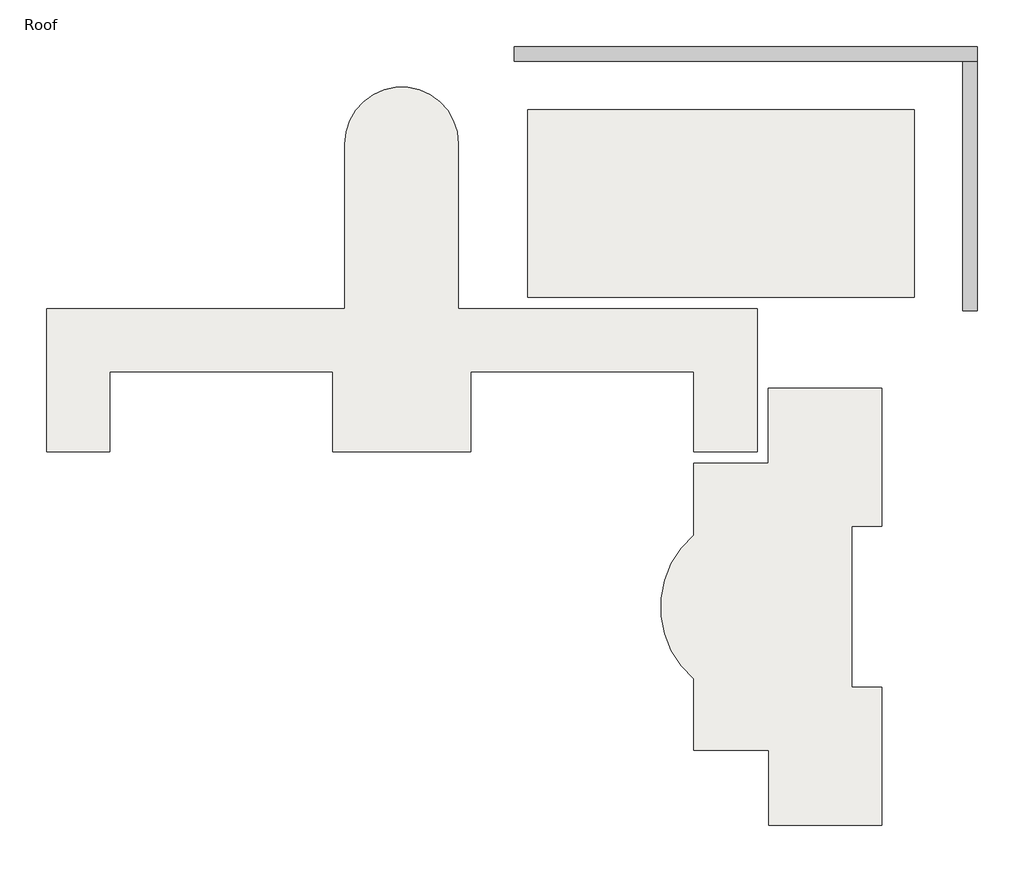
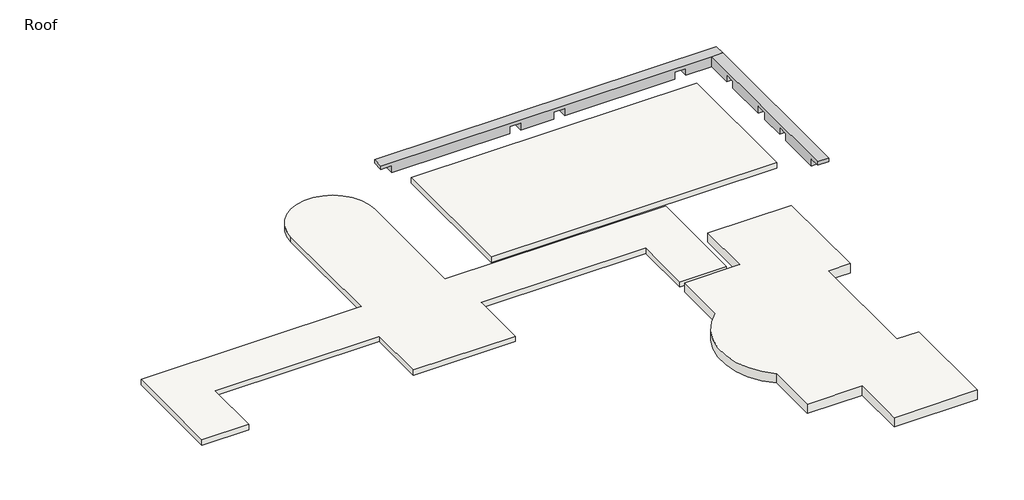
# One storey: 3 roofs, 2 beams.
"""IFC4 building model written with IfcOpenShell, lengths in millimetres."""

import ifcopenshell
import ifcopenshell.guid

model = None  # the IFC model being written
_history = None  # IfcOwnerHistory: only IFC2X3 demands one
_inside = {}  # id of a spatial element -> (the spatial element, [elements in it])
_under = {}  # id of a project, library or spatial element -> (it, [spatial elements below it])
_declared = {}  # id of a project -> (the project, [libraries it declares])
_typed = {}  # id of a type object -> (the type object, [elements of that type])
_made_of = {}  # id of a material, layer set ... -> (it, [elements and type objects made of it])


def new_model(schema):
    """Start an empty IFC model of exactly this schema.

    Asked for "IFC4X3", IfcOpenShell would pick the latest addendum, in which some entities
    have other attributes; the version numbers below select the first issue.
    IFC2X3 requires an IfcOwnerHistory on every rooted entity: one is made here for all.
    """
    global model, _history
    if schema == "IFC4X3":
        model = ifcopenshell.file(schema_version=(4, 3, 0, 0))
    else:
        model = ifcopenshell.file(schema=schema)
    _inside.clear()
    _under.clear()
    _declared.clear()
    _typed.clear()
    _made_of.clear()
    _history = None
    if model.schema == "IFC2X3":
        org = make("IfcOrganization", Name="unknown")
        user = make(
            "IfcPersonAndOrganization",
            ThePerson=make("IfcPerson", FamilyName="unknown"),
            TheOrganization=org,
        )
        app = make(
            "IfcApplication",
            ApplicationDeveloper=org,
            Version="unknown",
            ApplicationFullName="unknown",
            ApplicationIdentifier="unknown",
        )
        _history = make(
            "IfcOwnerHistory",
            OwningUser=user,
            OwningApplication=app,
            ChangeAction="ADDED",
            CreationDate=0,
        )
    return model


def make(cls, **values):
    """One entity of the class cls with the attributes given. An attribute that is None is left unset."""
    return model.create_entity(
        cls, **{name: value for name, value in values.items() if value is not None}
    )


def rooted(cls, **values):
    """An entity with a GlobalId (a new one), such as an element, a storey or a relation."""
    return make(cls, GlobalId=ifcopenshell.guid.new(), OwnerHistory=_history, **values)


def si_unit(unit_type, name, prefix=None):
    """IfcSIUnit, for example si_unit("LENGTHUNIT", "METRE", prefix="MILLI")."""
    return make("IfcSIUnit", UnitType=unit_type, Prefix=prefix, Name=name)


def assignment(units):
    """IfcUnitAssignment: the units of a project."""
    return None if units is None else make("IfcUnitAssignment", Units=units)


def point(xyz):
    """IfcCartesianPoint."""
    return None if xyz is None else make("IfcCartesianPoint", Coordinates=xyz)


def direction(xyz):
    """IfcDirection."""
    return None if xyz is None else make("IfcDirection", DirectionRatios=xyz)


def frame(location, z_axis=None, x_axis=None):
    """IfcAxis2Placement3D, a coordinate frame: its origin and axes. An axis left out is left unset."""
    return make(
        "IfcAxis2Placement3D",
        Location=point(location),
        Axis=direction(z_axis),
        RefDirection=direction(x_axis),
    )


def frame_2d(location, x_axis=None):
    """IfcAxis2Placement2D, a coordinate frame in the plane: its origin and x axis."""
    return make(
        "IfcAxis2Placement2D", Location=point(location), RefDirection=direction(x_axis)
    )


def origin():
    """The frame at (0, 0, 0) with its axes left unset."""
    return frame((0.0, 0.0, 0.0))


def place(relative_to, where):
    """IfcLocalPlacement: puts the frame where relative to a parent placement (None: the world)."""
    return make(
        "IfcLocalPlacement", PlacementRelTo=relative_to, RelativePlacement=where
    )


def context(
    kind, dimensions, precision=None, world=None, true_north=None, identifier=None
):
    """IfcGeometricRepresentationContext, for example the 3D "Model" context."""
    return make(
        "IfcGeometricRepresentationContext",
        ContextIdentifier=identifier,
        ContextType=kind,
        CoordinateSpaceDimension=dimensions,
        Precision=precision,
        WorldCoordinateSystem=world,
        TrueNorth=true_north,
    )


def project(units=None, contexts=None):
    """IfcProject with its units and contexts."""
    return rooted(
        "IfcProject",
        Name="project",
        RepresentationContexts=contexts,
        UnitsInContext=assignment(units),
    )


def spatial(cls, under=None, at=None, **own):
    """A site, building, storey or space (cls), placed at a placement, below another one or the project."""
    s = rooted(cls, ObjectPlacement=at, **own)
    if under is not None:
        _under.setdefault(under.id(), (under, []))[1].append(s)
    return s


def polyline(points):
    """IfcPolyline through the points."""
    return make("IfcPolyline", Points=[point(p) for p in points])


def circle_curve(where, radius):
    """IfcCircle in the frame where."""
    return make("IfcCircle", Position=where, Radius=radius)


def trimmed(basis, trim1, trim2, sense, master):
    """IfcTrimmedCurve: the piece of a basis curve between two trims."""
    return make(
        "IfcTrimmedCurve",
        BasisCurve=basis,
        Trim1=trim1,
        Trim2=trim2,
        SenseAgreement=sense,
        MasterRepresentation=master,
    )


def segment(curve, same_sense, transition):
    """IfcCompositeCurveSegment."""
    return make(
        "IfcCompositeCurveSegment",
        Transition=transition,
        SameSense=same_sense,
        ParentCurve=curve,
    )


def composite_curve(segments, self_intersect=None):
    """IfcCompositeCurve: segments joined end to end."""
    return make("IfcCompositeCurve", Segments=segments, SelfIntersect=self_intersect)


def outline(outer, holes=None, kind="AREA"):
    """IfcArbitraryClosedProfileDef: a profile drawn as a closed curve; with holes, ...WithVoids."""
    if holes is None:
        return make("IfcArbitraryClosedProfileDef", ProfileType=kind, OuterCurve=outer)
    return make(
        "IfcArbitraryProfileDefWithVoids",
        ProfileType=kind,
        OuterCurve=outer,
        InnerCurves=holes,
    )


def extrude(swept, where, along, depth):
    """IfcExtrudedAreaSolid: the profile swept, set in the frame where, extruded along a direction by depth."""
    return make(
        "IfcExtrudedAreaSolid",
        SweptArea=swept,
        Position=where,
        ExtrudedDirection=direction(along),
        Depth=depth,
    )


def faces_of(points, faces, orient=None, outer=None):
    """IfcFace entities. A face is a list of loops; a loop is a list of indices into points, from 0.

    orient and outer hold one flag for each loop. By default every Orientation is true, the
    first loop of a face is its IfcFaceOuterBound and the others are IfcFaceBound.
    """
    made = []
    for i, loops in enumerate(faces):
        bounds = []
        for j, loop in enumerate(loops):
            is_outer = j == 0 if outer is None else outer[i][j]
            bounds.append(
                make(
                    "IfcFaceOuterBound" if is_outer else "IfcFaceBound",
                    Bound=make("IfcPolyLoop", Polygon=[points[k] for k in loop]),
                    Orientation=True if orient is None else orient[i][j],
                )
            )
        made.append(make("IfcFace", Bounds=bounds))
    return made


def faceted_brep(points, faces, orient=None, outer=None, voids=None):
    """IfcFacetedBrep: a solid bounded by flat faces; with voids (closed shells), ...WithVoids."""
    shared = [point(p) for p in points]
    hull = make("IfcClosedShell", CfsFaces=faces_of(shared, faces, orient, outer))
    if voids is None:
        return make("IfcFacetedBrep", Outer=hull)
    return make(
        "IfcFacetedBrepWithVoids",
        Outer=hull,
        Voids=[
            make(cls, CfsFaces=faces_of(shared, fs, o, b)) for cls, fs, o, b in voids
        ],
    )


def shape(context_of_items, identifier, shape_type, items):
    """IfcShapeRepresentation: the items that make up one representation, for example the "Body"."""
    return make(
        "IfcShapeRepresentation",
        ContextOfItems=context_of_items,
        RepresentationIdentifier=identifier,
        RepresentationType=shape_type,
        Items=items,
    )


def made_of(thing, what):
    """Note that an element or type object is made of a material, layer set ...; save() writes the relation."""
    if what is not None:
        _made_of.setdefault(what.id(), (what, []))[1].append(thing)
    return thing


def element(
    cls,
    number,
    at=None,
    inside=None,
    cuts=None,
    type_object=None,
    material=None,
    context=None,
    identifier="Body",
    shape_type=None,
    held_by="IfcProductDefinitionShape",
    body=None,
    shapes=None,
    **own,
):
    """One element of the class cls, such as IfcWall. Its Tag is "e" and its number.

    at: its placement. inside: the storey or other place that contains it. cuts: it is an
    opening in that element (IfcRelVoidsElement). A single representation is given by context,
    identifier, shape_type and body (its items); several are given by shapes. held_by: the class
    of the entity that holds the representations. save() writes the other relations.
    """
    e = rooted(cls, Tag="e%d" % number, ObjectPlacement=at, **own)
    if body is not None:
        shapes = [shape(context, identifier, shape_type, body)]
    if shapes is not None:
        e.Representation = make(held_by, Representations=shapes)
    if inside is not None:
        _inside.setdefault(inside.id(), (inside, []))[1].append(e)
    if cuts is not None:
        rooted(
            "IfcRelVoidsElement", RelatingBuildingElement=cuts, RelatedOpeningElement=e
        )
    if type_object is not None:
        _typed.setdefault(type_object.id(), (type_object, []))[1].append(e)
    return made_of(e, material)


def aggregate(whole, parts):
    """IfcRelAggregates: a whole, such as a stair, and the parts it consists of."""
    return rooted("IfcRelAggregates", RelatingObject=whole, RelatedObjects=parts)


def save(model, path):
    """Write the relations noted so far, then the file.

    IfcRelAggregates (storeys below a building ...), IfcRelContainedInSpatialStructure (elements
    in a storey), IfcRelDefinesByType, IfcRelAssociatesMaterial and IfcRelDeclares: one each for
    every whole, place, type object, material and project.
    """
    for whole, parts in _under.values():
        aggregate(whole, parts)
    for where, things in _inside.values():
        rooted(
            "IfcRelContainedInSpatialStructure",
            RelatedElements=things,
            RelatingStructure=where,
        )
    for kind, things in _typed.values():
        rooted("IfcRelDefinesByType", RelatedObjects=things, RelatingType=kind)
    for what, things in _made_of.values():
        rooted("IfcRelAssociatesMaterial", RelatedObjects=things, RelatingMaterial=what)
    for by, libraries in _declared.values():
        rooted("IfcRelDeclares", RelatingContext=by, RelatedDefinitions=libraries)
    model.write(path)


model = new_model("IFC4")

# Units and contexts
model_context = context("Model", 3, world=origin())
ifc_project = project(units=[si_unit("LENGTHUNIT", "METRE", prefix="MILLI")], contexts=[model_context])

# Site, building, storey
site = spatial("IfcSite", under=ifc_project)
building = spatial("IfcBuilding", under=site)
storey = spatial("IfcBuildingStorey", under=building, Name="Roof", Elevation=12192.0)

# Beams
placement = place(None, origin())
element("IfcBeam", 1, ObjectType="Concrete-Rectangular Beam : 18 x 18", at=placement, inside=storey, context=model_context, shape_type="Brep", body=[
    faceted_brep([(-11622.0589563, 11741.6316867, 12192.0), (-11622.0589563, 12198.8316867, 12192.0), (-11622.0589563, 12198.8316867, 12039.6), (-11622.0589563, 11741.6316867, 12039.6), (2093.9410437, 11741.6316867, 12192.0), (2551.1410437, 11741.6316867, 12192.0), (2551.1410437, 12198.8316867, 12192.0), (-11164.8589563, 11741.6316867, 12039.6), (-11164.8589563, 11741.6316867, 11734.8), (-6288.0589563, 11741.6316867, 11734.8), (-6288.0589563, 11741.6316867, 12039.6), (-5830.8589563, 11741.6316867, 12039.6), (-5830.8589563, 11741.6316867, 11734.8), (-4459.2589563, 11741.6316867, 11734.8), (-4459.2589563, 11741.6316867, 12039.6), (-4002.0589563, 11741.6316867, 12039.6), (-4002.0589563, 11741.6316867, 11734.8), (569.9410437, 11741.6316867, 11734.8), (569.9410437, 11741.6316867, 12039.6), (1027.1410437, 11741.6316867, 12039.6), (1027.1410437, 11741.6316867, 11734.8), (2093.9410437, 11741.6316867, 11734.8), (2093.9410437, 11741.6316867, 12039.6), (2551.1410437, 11741.6316867, 12039.6), (1027.1410437, 12198.8316867, 11734.8), (2093.9410437, 12198.8316867, 11734.8), (2551.1410437, 12198.8316867, 12039.6), (2093.9410437, 12198.8316867, 12039.6), (1027.1410437, 12198.8316867, 12039.6), (569.9410437, 12198.8316867, 12039.6), (569.9410437, 12198.8316867, 11734.8), (-4002.0589563, 12198.8316867, 11734.8), (-4002.0589563, 12198.8316867, 12039.6), (-4459.2589563, 12198.8316867, 12039.6), (-4459.2589563, 12198.8316867, 11734.8), (-5830.8589563, 12198.8316867, 11734.8), (-5830.8589563, 12198.8316867, 12039.6), (-6288.0589563, 12198.8316867, 12039.6), (-6288.0589563, 12198.8316867, 11734.8), (-11164.8589563, 12198.8316867, 11734.8), (-11164.8589563, 12198.8316867, 12039.6)], [[[0, 1, 2, 3]], [[1, 0, 4, 5, 6]], [[5, 4, 0, 3, 7, 8, 9, 10, 11, 12, 13, 14, 15, 16, 17, 18, 19, 20, 21, 22, 23]], [[20, 24, 25, 21]], [[1, 6, 26, 27, 25, 24, 28, 29, 30, 31, 32, 33, 34, 35, 36, 37, 38, 39, 40, 2]], [[6, 5, 23, 26]], [[19, 28, 24, 20]], [[29, 18, 17, 30]], [[28, 19, 18, 29]], [[30, 17, 16, 31]], [[27, 22, 21, 25]], [[22, 27, 26, 23]], [[15, 32, 31, 16]], [[33, 14, 13, 34]], [[32, 15, 14, 33]], [[34, 13, 12, 35]], [[11, 36, 35, 12]], [[37, 10, 9, 38]], [[36, 11, 10, 37]], [[38, 9, 8, 39]], [[7, 40, 39, 8]], [[40, 7, 3, 2]]]),
])
element("IfcBeam", 2, ObjectType="Concrete-Rectangular Beam : 18 x 18", at=placement, inside=storey, context=model_context, shape_type="Brep", body=[
    faceted_brep([(2551.1410437, 4121.6316867, 12192.0), (2093.9410437, 4121.6316867, 12192.0), (2093.9410437, 4121.6316867, 12039.6), (2551.1410437, 4121.6316867, 12039.6), (2551.1410437, 11741.6316867, 12192.0), (2093.9410437, 11741.6316867, 12192.0), (2093.9410437, 11741.6316867, 12039.6), (2093.9410437, 11741.6316867, 11734.8), (2093.9410437, 10674.8316867, 11734.8), (2093.9410437, 10674.8316867, 12039.6), (2093.9410437, 10217.6316867, 12039.6), (2093.9410437, 10217.6316867, 11734.8), (2093.9410437, 8388.8316867, 11734.8), (2093.9410437, 8388.8316867, 12039.6), (2093.9410437, 7931.6316867, 12039.6), (2093.9410437, 7931.6316867, 11734.8), (2093.9410437, 6864.8316867, 11734.8), (2093.9410437, 6864.8316867, 12039.6), (2093.9410437, 6407.6316867, 12039.6), (2093.9410437, 6407.6316867, 11734.8), (2093.9410437, 4578.8316867, 11734.8), (2093.9410437, 4578.8316867, 12039.6), (2551.1410437, 6407.6316867, 11734.8), (2551.1410437, 4578.8316867, 11734.8), (2551.1410437, 4578.8316867, 12039.6), (2551.1410437, 6407.6316867, 12039.6), (2551.1410437, 6864.8316867, 12039.6), (2551.1410437, 6864.8316867, 11734.8), (2551.1410437, 7931.6316867, 11734.8), (2551.1410437, 7931.6316867, 12039.6), (2551.1410437, 8388.8316867, 12039.6), (2551.1410437, 8388.8316867, 11734.8), (2551.1410437, 10217.6316867, 11734.8), (2551.1410437, 10217.6316867, 12039.6), (2551.1410437, 10674.8316867, 12039.6), (2551.1410437, 10674.8316867, 11734.8), (2551.1410437, 11741.6316867, 11734.8), (2551.1410437, 11741.6316867, 12039.6)], [[[0, 1, 2, 3]], [[1, 0, 4, 5]], [[5, 6, 7, 8, 9, 10, 11, 12, 13, 14, 15, 16, 17, 18, 19, 20, 21, 2, 1]], [[19, 22, 23, 20]], [[4, 0, 3, 24, 23, 22, 25, 26, 27, 28, 29, 30, 31, 32, 33, 34, 35, 36, 37]], [[5, 4, 37, 36, 7, 6]], [[10, 33, 32, 11]], [[34, 9, 8, 35]], [[33, 10, 9, 34]], [[7, 36, 35, 8]], [[14, 29, 28, 15]], [[30, 13, 12, 31]], [[29, 14, 13, 30]], [[11, 32, 31, 12]], [[18, 25, 22, 19]], [[26, 17, 16, 27]], [[25, 18, 17, 26]], [[15, 28, 27, 16]], [[24, 21, 20, 23]], [[21, 24, 3, 2]]]),
])

# Roofs
element("IfcRoof", 3, ObjectType="Generic - 400mm", at=placement, inside=storey, context=model_context, shape_type="SweptSolid", body=[
    extrude(outline(composite_curve([segment(polyline([(-379.3839563, 1735.6191867), (-379.3839563, -2483.9558133), (-1293.7839563, -2483.9558133), (-1293.7839563, -7408.3808133), (-379.3839563, -7408.3808133), (-379.3839563, -11627.9558133), (-3836.9589563, -11627.9558133), (-3836.9589563, -9341.9558133), (-6122.9589563, -9341.9558133), (-6122.9589563, -7148.6528469)]), True, "CONTINUOUS"), segment(trimmed(circle_curve(frame_2d((-4269.7578344, -4953.2543405)), 2873.0), [point((-6122.9589563, -7148.6528469))], [point((-6122.9589563, -2757.8558342))], False, "CARTESIAN"), True, "CONTINUOUS"), segment(polyline([(-6122.9589563, -2757.8558342), (-6122.9589563, -550.3808133), (-3845.4214563, -550.3808133), (-3845.4214563, 1735.6191867), (-379.3839563, 1735.6191867)]), True, "CONTINUOUS")], self_intersect=False)), frame((0.0, 0.0, 12192.0), z_axis=(0.0, 0.0, 1.0), x_axis=(1.0, 0.0, 0.0)), (0.0, 0.0, 1.0), 400.0),
])
element("IfcRoof", 4, ObjectType="Generic - 9\"", at=placement, inside=storey, context=model_context, shape_type="SweptSolid", body=[
    extrude(outline(polyline([(-11217.2464563, 10270.0191867), (622.3285437, 10270.0191867), (622.3285437, 4526.4441867), (-11217.2464563, 4526.4441867), (-11217.2464563, 10270.0191867)])), frame((0.0, 0.0, 12192.0), z_axis=(0.0, 0.0, 1.0), x_axis=(1.0, 0.0, 0.0)), (0.0, 0.0, 1.0), 228.6),
])
element("IfcRoof", 5, ObjectType="Generic - 9\"", at=placement, inside=storey, context=model_context, shape_type="SweptSolid", body=[
    extrude(outline(composite_curve([segment(polyline([(-25934.9589563, -197.9558133), (-25934.9589563, 4174.0191867), (-16803.6589563, 4174.0191867), (-16803.6589563, 9227.0316867)]), True, "CONTINUOUS"), segment(trimmed(circle_curve(frame_2d((-15068.5214563, 9227.0316867)), 1735.1375), [point((-16803.6589563, 9227.0316867))], [point((-13333.3839563, 9227.0316867))], False, "CARTESIAN"), True, "CONTINUOUS"), segment(polyline([(-13333.3839563, 9227.0316867), (-13333.3839563, 4174.0191867), (-4189.3839563, 4174.0191867), (-4189.3839563, -197.9558133), (-6122.9589563, -197.9558133), (-6122.9589563, 2240.4441867), (-12952.3839563, 2240.4441867), (-12952.3839563, -197.9558133), (-17171.9589563, -197.9558133), (-17171.9589563, 2240.4441867), (-24001.3839563, 2240.4441867), (-24001.3839563, -197.9558133), (-25934.9589563, -197.9558133)]), True, "CONTINUOUS")], self_intersect=False)), frame((0.0, 0.0, 12192.0), z_axis=(0.0, 0.0, 1.0), x_axis=(1.0, 0.0, 0.0)), (0.0, 0.0, 1.0), 228.6),
])

save(model, "model.ifc")
